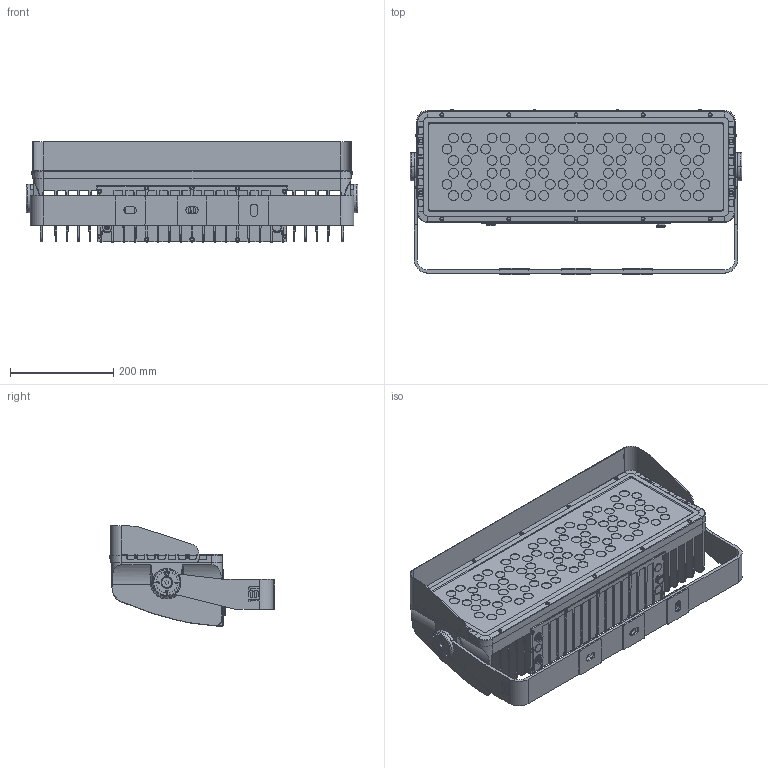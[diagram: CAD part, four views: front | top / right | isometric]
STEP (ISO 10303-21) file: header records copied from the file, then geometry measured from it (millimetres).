
FILE_DESCRIPTION (( 'STEP AP214' ), '1' );
FILE_NAME ('Beam F250 with louvre.STEP', '2025-10-15T08:52:52', ( '' ), ( '' ), 'SwSTEP 2.0', 'SolidWorks 2025', '' );
FILE_SCHEMA (( 'AUTOMOTIVE_DESIGN' ));
Length unit declared in the file: millimetre
Products named in the file (5): Beam F120 & F250 - Bracket protector; Beam F250 - Reimported body_LED pattern circular; Beam F250 - Louvre; Beam F250 - Bracket; Beam F250 with louvre
Assembly tree (9 placements, depth 2):
  Beam F250 with louvre
    Beam F250 - Bracket
    Beam F250 - Reimported body_LED pattern circular
    Beam F250 - Louvre
    Beam F120 & F250 - Bracket protector  x6
Bounding box: 643 x 320.4 x 194 mm (x, y, z)
Volume: 9084772.7 mm3; surface area: 1464007.1 mm2
Topology: 20 solids, 20 shells, 4201 faces, 10405 edges, 6482 vertices
Faces by surface type: plane 1910, cylinder 1360, torus 370, bspline 290, cone 153, sphere 118
Full cylindrical faces by diameter (mm): 7 x12, 12.107 x1, 14 x1, 19 x84
Entity records: 174456 total; most frequent: CARTESIAN_POINT 96338, ORIENTED_EDGE 20100, EDGE_CURVE 10050, DIRECTION 9392, B_SPLINE_CURVE_WITH_KNOTS 8698, VERTEX_POINT 6335, EDGE_LOOP 4537, AXIS2_PLACEMENT_3D 4440
